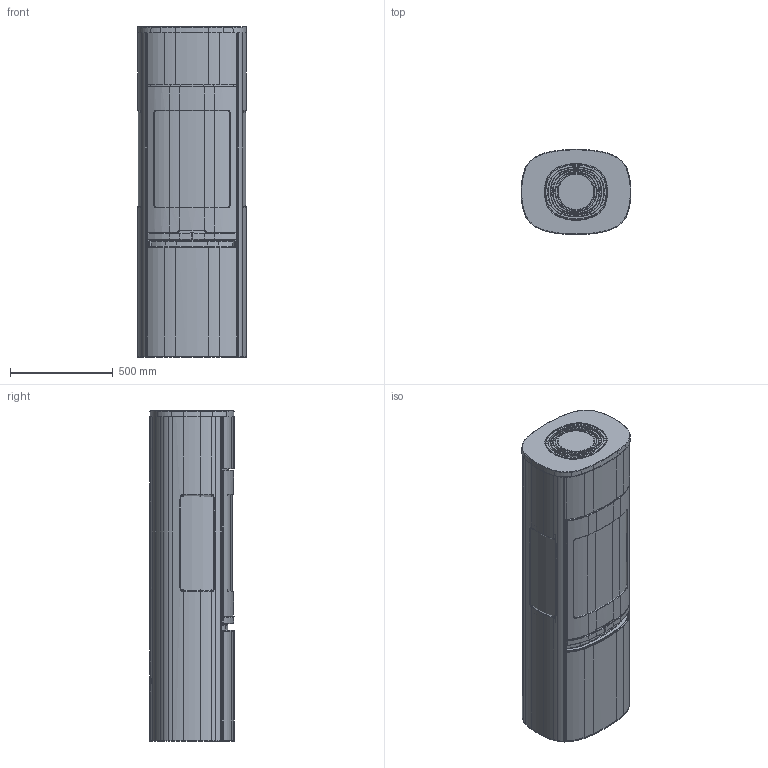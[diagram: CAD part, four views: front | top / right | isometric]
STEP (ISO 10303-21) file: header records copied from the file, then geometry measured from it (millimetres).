
FILE_DESCRIPTION(/* description */ ('Unknown'),/* implementation_level */ '2;1');
FILE_NAME(/* name */ 'DSN1111655_0_asm',/* time_stamp */ '2025-02-28T16:14:53+01:00',/* author */ ('Unknown'),/* organization */ ('NIBE AB'),/* preprocessor_version */ 'ST-DEVELOPER v18.102',/* originating_system */ 'Solid Edge',/* authorisation */ 'Unknown');
FILE_SCHEMA (('CONFIG_CONTROL_DESIGN'));
Products named in the file (13): DSN1111655; DSN1111629; DSN1111481; DSN1111509; DSN1111656; DSN1110955; DSN1111155; DSN1111118; DSN1111115; DSN1111641; DSN1111657; DSN1110998; DSN1111454
Assembly tree (14 placements, depth 2):
  DSN1111655
    DSN1111629
    DSN1111481  x2
    DSN1111509  x2
    DSN1111656
    DSN1110955
    DSN1111155
    DSN1111118
    DSN1111115
    DSN1111641
    DSN1111657
    DSN1110998
    DSN1111454
Bounding box: 534.52 x 414.02 x 1610 mm (x, y, z)
Volume: 256158885.9 mm3; surface area: 11756803 mm2
Topology: 14 solids, 14 shells, 1642 faces, 4180 edges, 2597 vertices
Faces by surface type: plane 440, cylinder 404, bspline 395, torus 235, cone 154, sphere 14
Full cylindrical faces by diameter (mm): 5 x5, 176.4 x1, 180.592 x1, 213.2 x1
Entity records: 78330 total; most frequent: CARTESIAN_POINT 41010, ORIENTED_EDGE 8200, DIRECTION 7210, EDGE_CURVE 4100, AXIS2_PLACEMENT_3D 2869, VERTEX_POINT 2567, FACE_BOUND 1721, EDGE_LOOP 1720
